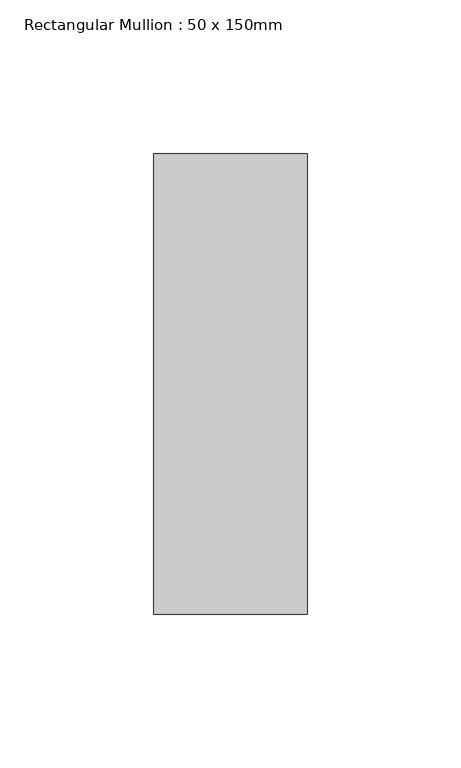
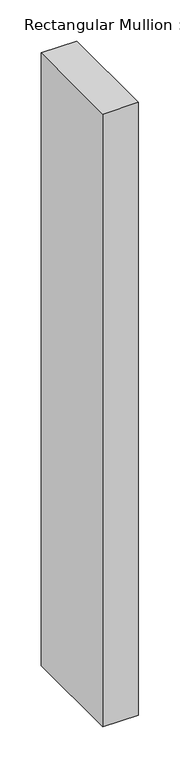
"""IFC4 building model written with IfcOpenShell, lengths in millimetres: member geometry, Rectangular Mullion : 50 x 150mm."""

from ifc_helpers import new_model, si_unit, frame, origin, place, context, project, spatial, polyline, outline, extrude, source, transform, mapped, element, save


def rectangular_mullion_50_x_150mm_c4a62785(model_context):
    return source(origin(), model_context, "Body", "SweptSolid", [
        extrude(outline(polyline([(25.0, 75.0), (25.0, -75.0), (-25.0, -75.0), (-25.0, 75.0), (25.0, 75.0)])), frame((0.0, 0.0, -908.8006681), z_axis=(0.0, 0.0, 1.0), x_axis=(1.0, 0.0, 0.0)), (0.0, 0.0, 1.0), 908.8006681),
    ])


if __name__ == "__main__":
    model = new_model("IFC4")
    model_context = context("Model", 3, world=origin())
    ifc_project = project(units=[si_unit("LENGTHUNIT", "METRE", prefix="MILLI")], contexts=[model_context])
    site = spatial("IfcSite", under=ifc_project)
    building = spatial("IfcBuilding", under=site)
    placement = place(None, origin())
    rectangular_mullion_50_x_150mm_shape = rectangular_mullion_50_x_150mm_c4a62785(model_context)
    element("IfcMember", 1, ObjectType="Rectangular Mullion : 50 x 150mm", at=placement, inside=building, context=model_context, shape_type="MappedRepresentation", body=[
        mapped(rectangular_mullion_50_x_150mm_shape, transform((0.0, 0.0, 0.0), x_axis=(1.0, 0.0, 0.0), y_axis=(0.0, 1.0, 0.0), z_axis=(0.0, 0.0, 1.0))),
    ])
    save(model, "model.ifc")
